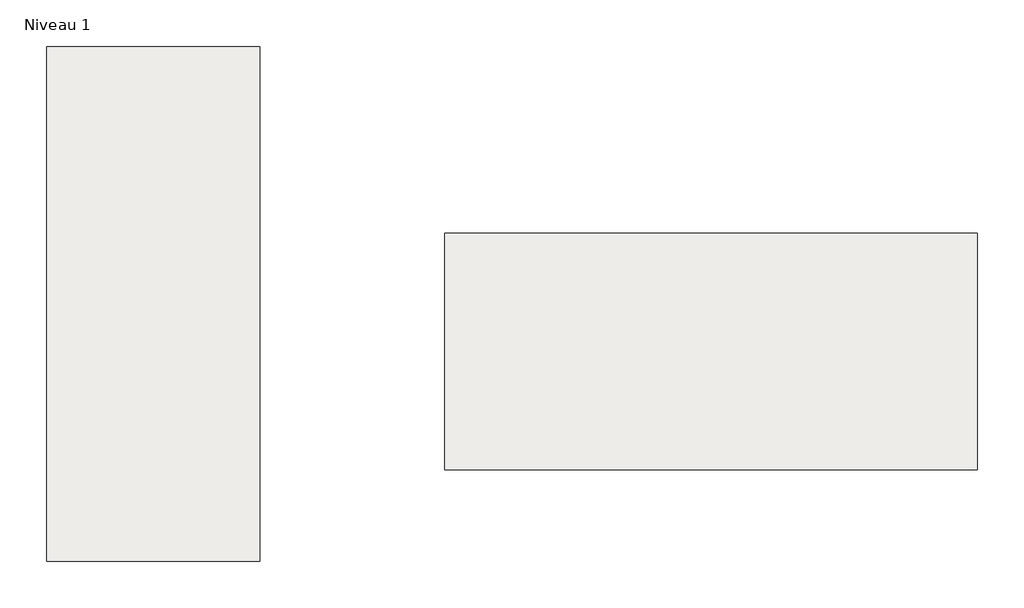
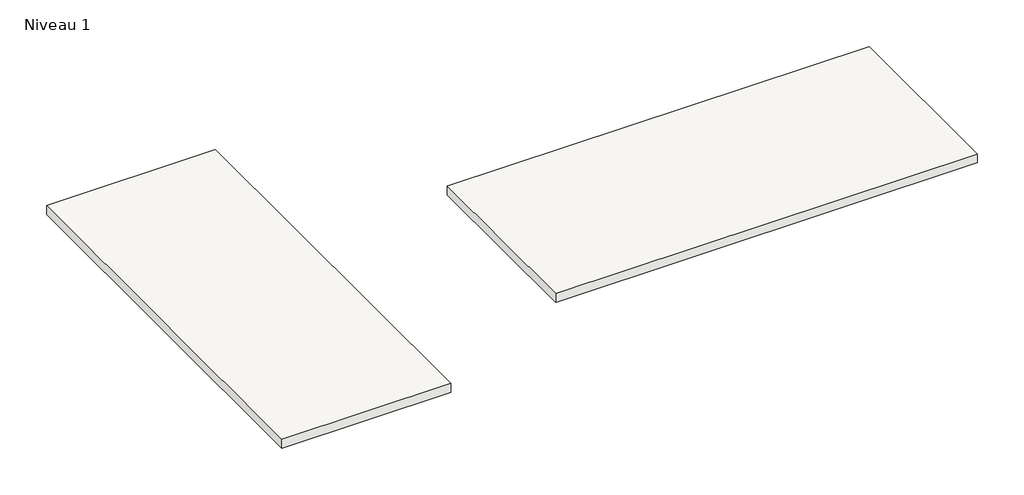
# One storey: 2 slabs.
"""IFC4 building model written with IfcOpenShell, lengths in millimetres."""

from ifc_helpers import new_model, si_unit, frame, origin, place, context, project, spatial, polyline, outline, extrude, element, save

model = new_model("IFC4")

# Units and contexts
model_context = context("Model", 3, world=origin())
ifc_project = project(units=[si_unit("LENGTHUNIT", "METRE", prefix="MILLI")], contexts=[model_context])

# Site, building, storey
site = spatial("IfcSite", under=ifc_project)
building = spatial("IfcBuilding", under=site)
storey = spatial("IfcBuildingStorey", under=building, Name="Niveau 1", Elevation=0.0)

# Slabs
placement = place(None, origin())
element("IfcSlab", 1, ObjectType="dalle 20cm", at=placement, inside=storey, context=model_context, shape_type="SweptSolid", body=[
    extrude(outline(polyline([(-4074.582207, 3014.8743672), (-4074.582207, -5685.1256328), (-7674.582207, -5685.1256328), (-7674.582207, 3014.8743672), (-4074.582207, 3014.8743672)])), frame((0.0, 0.0, -200.0), z_axis=(0.0, 0.0, 1.0), x_axis=(1.0, 0.0, 0.0)), (0.0, 0.0, 1.0), 200.0),
])
element("IfcSlab", 2, ObjectType="dalle 20cm", at=placement, inside=storey, context=model_context, shape_type="SweptSolid", body=[
    extrude(outline(polyline([(-943.4201959, -140.8908874), (8056.5798041, -140.8908874), (8056.5798041, -4140.8908874), (-943.4201959, -4140.8908874), (-943.4201959, -140.8908874)])), frame((0.0, 0.0, -200.0), z_axis=(0.0, 0.0, 1.0), x_axis=(1.0, 0.0, 0.0)), (0.0, 0.0, 1.0), 200.0),
])

save(model, "model.ifc")
